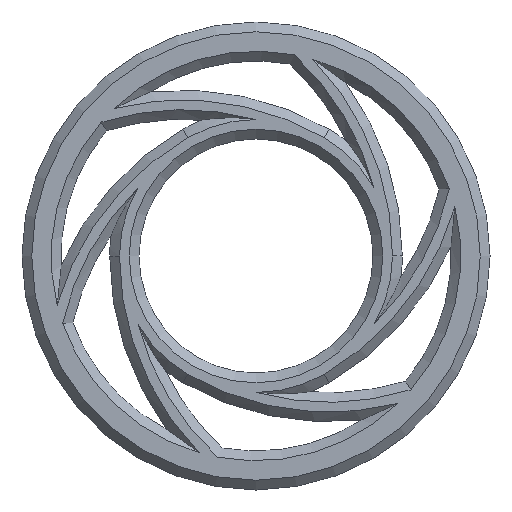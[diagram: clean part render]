
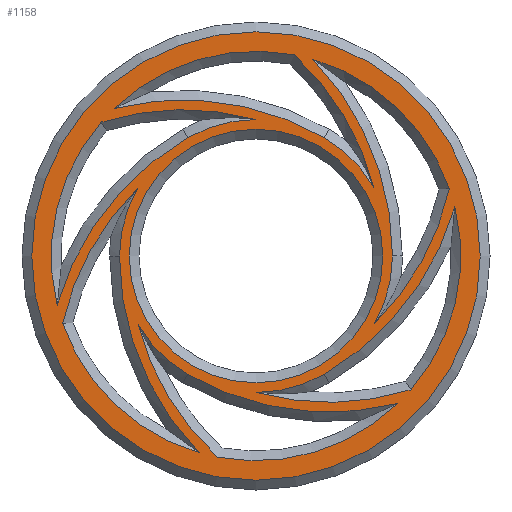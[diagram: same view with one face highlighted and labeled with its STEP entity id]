
A CAD part, front view. The second image highlights one B-rep face of the part: STEP entity #1158.
In plain terms, the highlighted planar face has unit normal (0, -1, 0).
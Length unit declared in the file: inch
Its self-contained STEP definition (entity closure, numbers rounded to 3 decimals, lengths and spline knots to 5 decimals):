
#77=FACE_BOUND('',#175,.T.);
#78=FACE_BOUND('',#176,.T.);
#79=FACE_BOUND('',#177,.T.);
#80=FACE_BOUND('',#178,.T.);
#81=FACE_BOUND('',#179,.T.);
#82=FACE_BOUND('',#180,.T.);
#83=FACE_BOUND('',#181,.T.);
#91=PLANE('',#1254);
#94=FACE_OUTER_BOUND('',#174,.T.);
#174=EDGE_LOOP('',(#745));
#175=EDGE_LOOP('',(#746,#747,#748,#749));
#176=EDGE_LOOP('',(#750,#751,#752,#753));
#177=EDGE_LOOP('',(#754,#755,#756,#757));
#178=EDGE_LOOP('',(#758,#759,#760,#761));
#179=EDGE_LOOP('',(#762,#763,#764,#765));
#180=EDGE_LOOP('',(#766,#767,#768,#769));
#181=EDGE_LOOP('',(#770));
#352=CIRCLE('',#1253,2.875);
#353=CIRCLE('',#1255,2.625);
#354=CIRCLE('',#1256,3.5);
#355=CIRCLE('',#1257,1.75);
#356=CIRCLE('',#1258,3.625);
#357=CIRCLE('',#1259,2.625);
#358=CIRCLE('',#1260,3.5);
#359=CIRCLE('',#1261,1.75);
#360=CIRCLE('',#1262,3.625);
#361=CIRCLE('',#1263,2.625);
#362=CIRCLE('',#1264,3.5);
#363=CIRCLE('',#1265,1.75);
#364=CIRCLE('',#1266,3.625);
#365=CIRCLE('',#1267,2.625);
#366=CIRCLE('',#1268,3.5);
#367=CIRCLE('',#1269,1.75);
#368=CIRCLE('',#1270,3.625);
#369=CIRCLE('',#1271,2.625);
#370=CIRCLE('',#1272,3.5);
#371=CIRCLE('',#1273,1.75);
#372=CIRCLE('',#1274,3.625);
#373=CIRCLE('',#1275,2.625);
#374=CIRCLE('',#1276,3.5);
#375=CIRCLE('',#1277,1.75);
#376=CIRCLE('',#1278,3.625);
#377=CIRCLE('',#1279,1.625);
#456=VERTEX_POINT('',#1851);
#457=VERTEX_POINT('',#1855);
#458=VERTEX_POINT('',#1856);
#459=VERTEX_POINT('',#1858);
#460=VERTEX_POINT('',#1860);
#461=VERTEX_POINT('',#1863);
#462=VERTEX_POINT('',#1864);
#463=VERTEX_POINT('',#1866);
#464=VERTEX_POINT('',#1868);
#465=VERTEX_POINT('',#1871);
#466=VERTEX_POINT('',#1872);
#467=VERTEX_POINT('',#1874);
#468=VERTEX_POINT('',#1876);
#469=VERTEX_POINT('',#1879);
#470=VERTEX_POINT('',#1880);
#471=VERTEX_POINT('',#1882);
#472=VERTEX_POINT('',#1884);
#473=VERTEX_POINT('',#1887);
#474=VERTEX_POINT('',#1888);
#475=VERTEX_POINT('',#1890);
#476=VERTEX_POINT('',#1892);
#477=VERTEX_POINT('',#1895);
#478=VERTEX_POINT('',#1896);
#479=VERTEX_POINT('',#1898);
#480=VERTEX_POINT('',#1900);
#481=VERTEX_POINT('',#1903);
#561=EDGE_CURVE('',#456,#456,#352,.T.);
#562=EDGE_CURVE('',#457,#458,#353,.T.);
#563=EDGE_CURVE('',#459,#457,#354,.T.);
#564=EDGE_CURVE('',#460,#459,#355,.T.);
#565=EDGE_CURVE('',#458,#460,#356,.T.);
#566=EDGE_CURVE('',#461,#462,#357,.T.);
#567=EDGE_CURVE('',#463,#461,#358,.T.);
#568=EDGE_CURVE('',#464,#463,#359,.T.);
#569=EDGE_CURVE('',#462,#464,#360,.T.);
#570=EDGE_CURVE('',#465,#466,#361,.T.);
#571=EDGE_CURVE('',#467,#465,#362,.T.);
#572=EDGE_CURVE('',#468,#467,#363,.T.);
#573=EDGE_CURVE('',#466,#468,#364,.T.);
#574=EDGE_CURVE('',#469,#470,#365,.T.);
#575=EDGE_CURVE('',#471,#469,#366,.T.);
#576=EDGE_CURVE('',#472,#471,#367,.T.);
#577=EDGE_CURVE('',#470,#472,#368,.T.);
#578=EDGE_CURVE('',#473,#474,#369,.T.);
#579=EDGE_CURVE('',#475,#473,#370,.T.);
#580=EDGE_CURVE('',#476,#475,#371,.T.);
#581=EDGE_CURVE('',#474,#476,#372,.T.);
#582=EDGE_CURVE('',#477,#478,#373,.T.);
#583=EDGE_CURVE('',#479,#477,#374,.T.);
#584=EDGE_CURVE('',#480,#479,#375,.T.);
#585=EDGE_CURVE('',#478,#480,#376,.T.);
#586=EDGE_CURVE('',#481,#481,#377,.T.);
#745=ORIENTED_EDGE('',*,*,#561,.F.);
#746=ORIENTED_EDGE('',*,*,#562,.F.);
#747=ORIENTED_EDGE('',*,*,#563,.F.);
#748=ORIENTED_EDGE('',*,*,#564,.F.);
#749=ORIENTED_EDGE('',*,*,#565,.F.);
#750=ORIENTED_EDGE('',*,*,#566,.F.);
#751=ORIENTED_EDGE('',*,*,#567,.F.);
#752=ORIENTED_EDGE('',*,*,#568,.F.);
#753=ORIENTED_EDGE('',*,*,#569,.F.);
#754=ORIENTED_EDGE('',*,*,#570,.F.);
#755=ORIENTED_EDGE('',*,*,#571,.F.);
#756=ORIENTED_EDGE('',*,*,#572,.F.);
#757=ORIENTED_EDGE('',*,*,#573,.F.);
#758=ORIENTED_EDGE('',*,*,#574,.F.);
#759=ORIENTED_EDGE('',*,*,#575,.F.);
#760=ORIENTED_EDGE('',*,*,#576,.F.);
#761=ORIENTED_EDGE('',*,*,#577,.F.);
#762=ORIENTED_EDGE('',*,*,#578,.F.);
#763=ORIENTED_EDGE('',*,*,#579,.F.);
#764=ORIENTED_EDGE('',*,*,#580,.F.);
#765=ORIENTED_EDGE('',*,*,#581,.F.);
#766=ORIENTED_EDGE('',*,*,#582,.F.);
#767=ORIENTED_EDGE('',*,*,#583,.F.);
#768=ORIENTED_EDGE('',*,*,#584,.F.);
#769=ORIENTED_EDGE('',*,*,#585,.F.);
#770=ORIENTED_EDGE('',*,*,#586,.F.);
#1158=ADVANCED_FACE('',(#94,#77,#78,#79,#80,#81,#82,#83),#91,.F.);
#1253=AXIS2_PLACEMENT_3D('',#1853,#1442,#1443);
#1254=AXIS2_PLACEMENT_3D('',#1854,#1444,#1445);
#1255=AXIS2_PLACEMENT_3D('',#1857,#1446,#1447);
#1256=AXIS2_PLACEMENT_3D('',#1859,#1448,#1449);
#1257=AXIS2_PLACEMENT_3D('',#1861,#1450,#1451);
#1258=AXIS2_PLACEMENT_3D('',#1862,#1452,#1453);
#1259=AXIS2_PLACEMENT_3D('',#1865,#1454,#1455);
#1260=AXIS2_PLACEMENT_3D('',#1867,#1456,#1457);
#1261=AXIS2_PLACEMENT_3D('',#1869,#1458,#1459);
#1262=AXIS2_PLACEMENT_3D('',#1870,#1460,#1461);
#1263=AXIS2_PLACEMENT_3D('',#1873,#1462,#1463);
#1264=AXIS2_PLACEMENT_3D('',#1875,#1464,#1465);
#1265=AXIS2_PLACEMENT_3D('',#1877,#1466,#1467);
#1266=AXIS2_PLACEMENT_3D('',#1878,#1468,#1469);
#1267=AXIS2_PLACEMENT_3D('',#1881,#1470,#1471);
#1268=AXIS2_PLACEMENT_3D('',#1883,#1472,#1473);
#1269=AXIS2_PLACEMENT_3D('',#1885,#1474,#1475);
#1270=AXIS2_PLACEMENT_3D('',#1886,#1476,#1477);
#1271=AXIS2_PLACEMENT_3D('',#1889,#1478,#1479);
#1272=AXIS2_PLACEMENT_3D('',#1891,#1480,#1481);
#1273=AXIS2_PLACEMENT_3D('',#1893,#1482,#1483);
#1274=AXIS2_PLACEMENT_3D('',#1894,#1484,#1485);
#1275=AXIS2_PLACEMENT_3D('',#1897,#1486,#1487);
#1276=AXIS2_PLACEMENT_3D('',#1899,#1488,#1489);
#1277=AXIS2_PLACEMENT_3D('',#1901,#1490,#1491);
#1278=AXIS2_PLACEMENT_3D('',#1902,#1492,#1493);
#1279=AXIS2_PLACEMENT_3D('',#1904,#1494,#1495);
#1442=DIRECTION('center_axis',(0.,1.,0.));
#1443=DIRECTION('ref_axis',(1.,0.,0.));
#1444=DIRECTION('center_axis',(0.,1.,0.));
#1445=DIRECTION('ref_axis',(1.,0.,0.));
#1446=DIRECTION('center_axis',(0.,-1.,0.));
#1447=DIRECTION('ref_axis',(1.,0.,0.));
#1448=DIRECTION('center_axis',(0.,-1.,0.));
#1449=DIRECTION('ref_axis',(-1.,0.,0.));
#1450=DIRECTION('center_axis',(0.,1.,0.));
#1451=DIRECTION('ref_axis',(-1.,0.,0.));
#1452=DIRECTION('center_axis',(0.,1.,0.));
#1453=DIRECTION('ref_axis',(-0.5,0.,-0.866));
#1454=DIRECTION('center_axis',(0.,-1.,0.));
#1455=DIRECTION('ref_axis',(-1.,0.,0.));
#1456=DIRECTION('center_axis',(0.,-1.,0.));
#1457=DIRECTION('ref_axis',(-0.5,0.,0.866));
#1458=DIRECTION('center_axis',(0.,1.,0.));
#1459=DIRECTION('ref_axis',(-1.,0.,0.));
#1460=DIRECTION('center_axis',(0.,1.,0.));
#1461=DIRECTION('ref_axis',(-1.,0.,0.));
#1462=DIRECTION('center_axis',(0.,-1.,0.));
#1463=DIRECTION('ref_axis',(-1.,0.,0.));
#1464=DIRECTION('center_axis',(0.,-1.,0.));
#1465=DIRECTION('ref_axis',(1.,0.,0.));
#1466=DIRECTION('center_axis',(0.,1.,0.));
#1467=DIRECTION('ref_axis',(1.,0.,0.));
#1468=DIRECTION('center_axis',(0.,1.,0.));
#1469=DIRECTION('ref_axis',(0.5,0.,0.866));
#1470=DIRECTION('center_axis',(0.,-1.,0.));
#1471=DIRECTION('ref_axis',(1.,0.,0.));
#1472=DIRECTION('center_axis',(0.,-1.,0.));
#1473=DIRECTION('ref_axis',(-0.5,0.,-0.866));
#1474=DIRECTION('center_axis',(0.,1.,0.));
#1475=DIRECTION('ref_axis',(1.,0.,0.));
#1476=DIRECTION('center_axis',(0.,1.,0.));
#1477=DIRECTION('ref_axis',(0.5,0.,-0.866));
#1478=DIRECTION('center_axis',(0.,-1.,0.));
#1479=DIRECTION('ref_axis',(1.,0.,0.));
#1480=DIRECTION('center_axis',(0.,-1.,0.));
#1481=DIRECTION('ref_axis',(0.5,0.,-0.866));
#1482=DIRECTION('center_axis',(0.,1.,0.));
#1483=DIRECTION('ref_axis',(1.,0.,0.));
#1484=DIRECTION('center_axis',(0.,1.,0.));
#1485=DIRECTION('ref_axis',(1.,0.,0.));
#1486=DIRECTION('center_axis',(0.,-1.,0.));
#1487=DIRECTION('ref_axis',(-1.,0.,0.));
#1488=DIRECTION('center_axis',(0.,-1.,0.));
#1489=DIRECTION('ref_axis',(0.5,0.,0.866));
#1490=DIRECTION('center_axis',(0.,1.,0.));
#1491=DIRECTION('ref_axis',(-1.,0.,0.));
#1492=DIRECTION('center_axis',(0.,1.,0.));
#1493=DIRECTION('ref_axis',(-0.5,0.,0.866));
#1494=DIRECTION('center_axis',(0.,-1.,0.));
#1495=DIRECTION('ref_axis',(1.,0.,0.));
#1851=CARTESIAN_POINT('',(-2.875,0.,0.));
#1853=CARTESIAN_POINT('Origin',(0.,0.,0.));
#1854=CARTESIAN_POINT('Origin',(0.,0.,0.));
#1855=CARTESIAN_POINT('',(-0.49167,0.,-2.57854));
#1856=CARTESIAN_POINT('',(1.81927,0.,-1.89232));
#1857=CARTESIAN_POINT('Origin',(0.,0.,0.));
#1858=CARTESIAN_POINT('',(-1.5125,0.,-0.88025));
#1859=CARTESIAN_POINT('Origin',(1.875,0.,0.));
#1860=CARTESIAN_POINT('',(-0.875,0.,-1.51554));
#1861=CARTESIAN_POINT('Origin',(0.,0.,0.));
#1862=CARTESIAN_POINT('Origin',(0.9375,0.,1.6238));
#1863=CARTESIAN_POINT('',(-2.47892,0.,-0.86348));
#1864=CARTESIAN_POINT('',(-0.72917,0.,-2.52169));
#1865=CARTESIAN_POINT('Origin',(0.,0.,0.));
#1866=CARTESIAN_POINT('',(-1.51857,0.,0.86974));
#1867=CARTESIAN_POINT('Origin',(0.9375,0.,-1.6238));
#1868=CARTESIAN_POINT('',(-1.75,0.,0.));
#1869=CARTESIAN_POINT('Origin',(0.,0.,0.));
#1870=CARTESIAN_POINT('Origin',(1.875,0.,0.));
#1871=CARTESIAN_POINT('',(0.49167,0.,2.57854));
#1872=CARTESIAN_POINT('',(-1.81927,0.,1.89232));
#1873=CARTESIAN_POINT('Origin',(0.,0.,0.));
#1874=CARTESIAN_POINT('',(1.5125,0.,0.88025));
#1875=CARTESIAN_POINT('Origin',(-1.875,0.,0.));
#1876=CARTESIAN_POINT('',(0.875,0.,1.51554));
#1877=CARTESIAN_POINT('Origin',(0.,0.,0.));
#1878=CARTESIAN_POINT('Origin',(-0.9375,0.,-1.6238));
#1879=CARTESIAN_POINT('',(1.98725,0.,-1.71507));
#1880=CARTESIAN_POINT('',(2.54843,0.,0.62937));
#1881=CARTESIAN_POINT('Origin',(0.,0.,0.));
#1882=CARTESIAN_POINT('',(0.00607,0.,-1.74999));
#1883=CARTESIAN_POINT('Origin',(0.9375,0.,1.6238));
#1884=CARTESIAN_POINT('',(0.875,0.,-1.51554));
#1885=CARTESIAN_POINT('Origin',(0.,0.,0.));
#1886=CARTESIAN_POINT('Origin',(-0.9375,0.,1.6238));
#1887=CARTESIAN_POINT('',(2.47892,0.,0.86348));
#1888=CARTESIAN_POINT('',(0.72917,0.,2.52169));
#1889=CARTESIAN_POINT('Origin',(0.,0.,0.));
#1890=CARTESIAN_POINT('',(1.51857,0.,-0.86974));
#1891=CARTESIAN_POINT('Origin',(-0.9375,0.,1.6238));
#1892=CARTESIAN_POINT('',(1.75,0.,0.));
#1893=CARTESIAN_POINT('Origin',(0.,0.,0.));
#1894=CARTESIAN_POINT('Origin',(-1.875,0.,0.));
#1895=CARTESIAN_POINT('',(-1.98725,0.,1.71507));
#1896=CARTESIAN_POINT('',(-2.54843,0.,-0.62937));
#1897=CARTESIAN_POINT('Origin',(0.,0.,0.));
#1898=CARTESIAN_POINT('',(-0.00607,0.,1.74999));
#1899=CARTESIAN_POINT('Origin',(-0.9375,0.,-1.6238));
#1900=CARTESIAN_POINT('',(-0.875,0.,1.51554));
#1901=CARTESIAN_POINT('Origin',(0.,0.,0.));
#1902=CARTESIAN_POINT('Origin',(0.9375,0.,-1.6238));
#1903=CARTESIAN_POINT('',(-1.625,0.,0.));
#1904=CARTESIAN_POINT('Origin',(0.,0.,0.));
